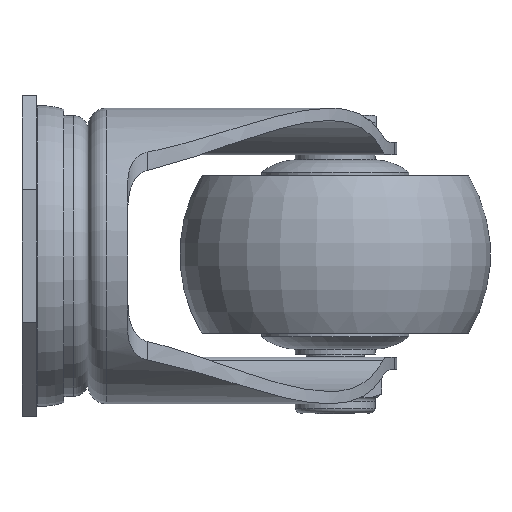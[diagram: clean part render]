
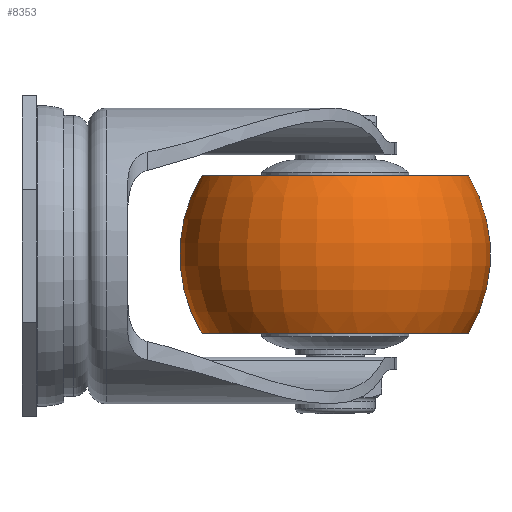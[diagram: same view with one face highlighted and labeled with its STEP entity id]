
A CAD part, left-side view. The second image highlights one B-rep face of the part: STEP entity #8353.
In plain terms, the highlighted toroidal (fillet/blend) face has major radius 0.806 mm and minor radius 30.694 mm.
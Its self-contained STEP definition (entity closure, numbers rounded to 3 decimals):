
#6824 = EDGE_CURVE ( 'NONE', #6855, #6860, #13160, .T. ) ;
#6834 = EDGE_CURVE ( 'NONE', #6836, #6840, #13137, .T. ) ;
#6836 = VERTEX_POINT ( 'NONE', #13467 ) ;
#6840 = VERTEX_POINT ( 'NONE', #13460 ) ;
#6855 = VERTEX_POINT ( 'NONE', #13451 ) ;
#6860 = VERTEX_POINT ( 'NONE', #13450 ) ;
#8334 = EDGE_LOOP ( 'NONE', ( #8341, #8342, #8343, #8386 ) ) ;
#8336 = EDGE_CURVE ( 'NONE', #6840, #6860, #13499, .T. ) ;
#8338 = EDGE_CURVE ( 'NONE', #6836, #6855, #13552, .T. ) ;
#8341 = ORIENTED_EDGE ( 'NONE', *, *, #6834, .F. ) ;
#8342 = ORIENTED_EDGE ( 'NONE', *, *, #8338, .T. ) ;
#8343 = ORIENTED_EDGE ( 'NONE', *, *, #6824, .T. ) ;
#8353 = ADVANCED_FACE ( 'NONE', ( #13536 ), #13535, .T. ) ;
#8386 = ORIENTED_EDGE ( 'NONE', *, *, #8336, .F. ) ;
#13102 = CARTESIAN_POINT ( 'NONE',  ( 0., 0., -0.806 ) ) ;
#13133 = DIRECTION ( 'NONE',  ( 0., 0., -1. ) ) ;
#13134 = DIRECTION ( 'NONE',  ( 1., 0., 0. ) ) ;
#13135 = CARTESIAN_POINT ( 'NONE',  ( 0., 0., 0.806 ) ) ;
#13136 = AXIS2_PLACEMENT_3D ( 'NONE', #13135, #13134, #13133 ) ;
#13137 = CIRCLE ( 'NONE', #13136, 30.694 ) ;
#13157 = DIRECTION ( 'NONE',  ( 0., 0., 1. ) ) ;
#13158 = DIRECTION ( 'NONE',  ( -1., 0., 0. ) ) ;
#13159 = AXIS2_PLACEMENT_3D ( 'NONE', #13102, #13158, #13157 ) ;
#13160 = CIRCLE ( 'NONE', #13159, 30.694 ) ;
#13450 = CARTESIAN_POINT ( 'NONE',  ( 0., -16., -27. ) ) ;
#13451 = CARTESIAN_POINT ( 'NONE',  ( 0., 16., -27. ) ) ;
#13460 = CARTESIAN_POINT ( 'NONE',  ( 0., -16., 27. ) ) ;
#13467 = CARTESIAN_POINT ( 'NONE',  ( 0., 16., 27. ) ) ;
#13499 = CIRCLE ( 'NONE', #13563, 27. ) ;
#13530 = DIRECTION ( 'NONE',  ( 0., 0., -1. ) ) ;
#13531 = DIRECTION ( 'NONE',  ( 0., -1., 0. ) ) ;
#13532 = CARTESIAN_POINT ( 'NONE',  ( 0., 0., 0. ) ) ;
#13533 = AXIS2_PLACEMENT_3D ( 'NONE', #13532, #13531, #13530 ) ;
#13535 = TOROIDAL_SURFACE ( 'NONE', #13533, 0.806, 30.694 ) ;
#13536 = FACE_OUTER_BOUND ( 'NONE', #8334, .T. ) ;
#13549 = DIRECTION ( 'NONE',  ( 0., 0., -1. ) ) ;
#13550 = DIRECTION ( 'NONE',  ( 0., -1., 0. ) ) ;
#13551 = AXIS2_PLACEMENT_3D ( 'NONE', #13557, #13550, #13549 ) ;
#13552 = CIRCLE ( 'NONE', #13551, 27. ) ;
#13557 = CARTESIAN_POINT ( 'NONE',  ( 0., 16., 0. ) ) ;
#13560 = DIRECTION ( 'NONE',  ( 0., 0., -1. ) ) ;
#13561 = DIRECTION ( 'NONE',  ( 0., -1., 0. ) ) ;
#13562 = CARTESIAN_POINT ( 'NONE',  ( 0., -16., 0. ) ) ;
#13563 = AXIS2_PLACEMENT_3D ( 'NONE', #13562, #13561, #13560 ) ;
